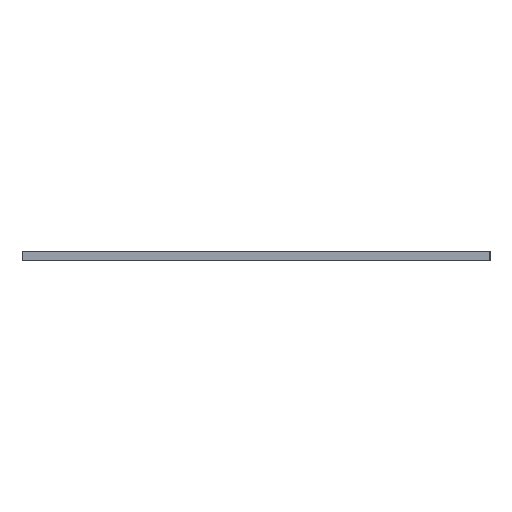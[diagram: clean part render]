
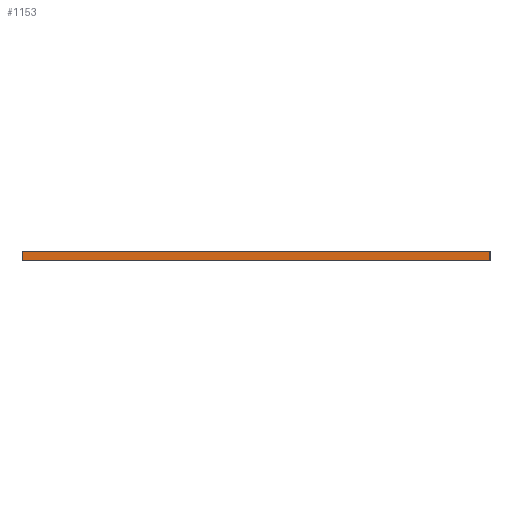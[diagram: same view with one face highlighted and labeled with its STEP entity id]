
A CAD part, left-side view. The second image highlights one B-rep face of the part: STEP entity #1153.
In plain terms, the highlighted planar face has unit normal (-1, 0, 0).
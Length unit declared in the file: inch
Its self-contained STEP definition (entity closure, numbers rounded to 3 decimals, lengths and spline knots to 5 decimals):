
#1=DIRECTION('',(0.,-1.,0.));
#2=VECTOR('',#1,3.);
#3=CARTESIAN_POINT('',(-5.5,1.5,0.));
#4=LINE('',#3,#2);
#247=DIRECTION('',(0.,0.,1.));
#248=VECTOR('',#247,0.0625);
#249=CARTESIAN_POINT('',(-5.5,1.5,0.));
#250=LINE('',#249,#248);
#259=DIRECTION('',(0.,0.,1.));
#260=VECTOR('',#259,0.0625);
#261=CARTESIAN_POINT('',(-5.5,-1.5,0.));
#262=LINE('',#261,#260);
#263=DIRECTION('',(0.,-1.,0.));
#264=VECTOR('',#263,3.);
#265=CARTESIAN_POINT('',(-5.5,1.5,0.0625));
#266=LINE('',#265,#264);
#757=CARTESIAN_POINT('',(-5.5,1.5,0.));
#758=CARTESIAN_POINT('',(-5.5,-1.5,0.));
#759=VERTEX_POINT('',#757);
#760=VERTEX_POINT('',#758);
#765=CARTESIAN_POINT('',(-5.5,1.5,0.0625));
#766=CARTESIAN_POINT('',(-5.5,-1.5,0.0625));
#767=VERTEX_POINT('',#765);
#768=VERTEX_POINT('',#766);
#1139=CARTESIAN_POINT('',(-5.5,1.5,0.));
#1140=DIRECTION('',(-1.,0.,0.));
#1141=DIRECTION('',(0.,-1.,0.));
#1142=AXIS2_PLACEMENT_3D('',#1139,#1140,#1141);
#1143=PLANE('',#1142);
#1144=ORIENTED_EDGE('',*,*,#994,.F.);
#1146=ORIENTED_EDGE('',*,*,#1145,.T.);
#1148=ORIENTED_EDGE('',*,*,#1147,.T.);
#1150=ORIENTED_EDGE('',*,*,#1149,.F.);
#1151=EDGE_LOOP('',(#1144,#1146,#1148,#1150));
#1152=FACE_OUTER_BOUND('',#1151,.F.);
#1153=ADVANCED_FACE('',(#1152),#1143,.T.);
#994=EDGE_CURVE('',#759,#760,#4,.T.);
#1145=EDGE_CURVE('',#759,#767,#250,.T.);
#1147=EDGE_CURVE('',#767,#768,#266,.T.);
#1149=EDGE_CURVE('',#760,#768,#262,.T.);
